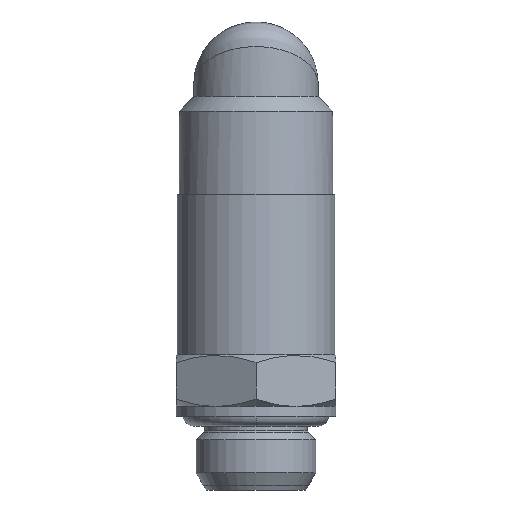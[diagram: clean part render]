
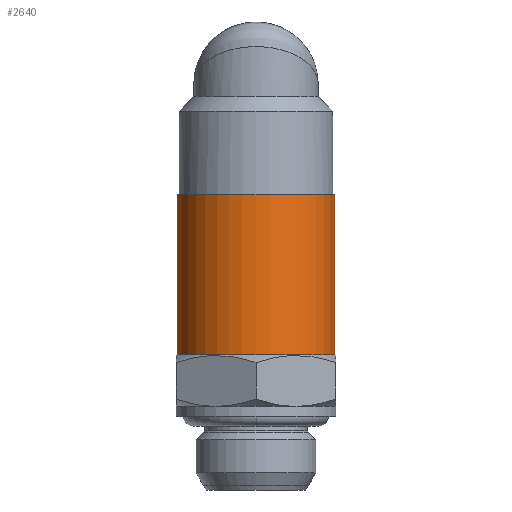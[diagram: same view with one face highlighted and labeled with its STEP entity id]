
A CAD part, left-side view. The second image highlights one B-rep face of the part: STEP entity #2640.
In plain terms, the highlighted cylindrical face has radius 6.4 mm (diameter 12.8 mm), a full revolution.
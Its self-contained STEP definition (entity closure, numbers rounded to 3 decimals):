
#2640=ADVANCED_FACE('', (#2650,#2660), #2670, .T.);
#7990=AXIS2_PLACEMENT_3D('Ax2Pl3d', #8000, #8010, #8020);
#8550=AXIS2_PLACEMENT_3D('Ax2Pl3d', #8560, #8570, #8580);
#8590=AXIS2_PLACEMENT_3D('Ax2Pl3d', #8600, #8610, #8620);
#8000=CARTESIAN_POINT('HicPkt', (7.748,9.497,
-9.921));
#23720=CARTESIAN_POINT('', (7.748,3.097,-9.921))
;
#8560=CARTESIAN_POINT('HicPkt', (7.748,9.497,
3.079));
#8600=CARTESIAN_POINT('HicPkt', (7.748,9.497,
3.079));
#23790=CARTESIAN_POINT('', (7.748,15.897,3.079));
#24440=CIRCLE('Circle', #7990, 6.4);
#24510=CIRCLE('Circle', #8590, 6.4);
#2670=CYLINDRICAL_SURFACE('Zyl', #8550, 6.4);
#8010=DIRECTION('Axis', (0.,0.,1.));
#8020=DIRECTION('RefDirection', (1.,0.,-0.));
#8570=DIRECTION('Axis', (0.,0.,-1.));
#8580=DIRECTION('RefDirection', (-1.,-0.,0.));
#8610=DIRECTION('Axis', (0.,0.,1.));
#8620=DIRECTION('RefDirection', (1.,0.,-0.));
#29320=EDGE_CURVE('', #29330, #29330, #24440, .T.);
#29460=EDGE_CURVE('', #29470, #29470, #24510, .T.);
#32630=EDGE_LOOP('Edge_loop', (#32640));
#32650=EDGE_LOOP('Edge_loop', (#32660));
#2660=FACE_BOUND('', #32650, .T.);
#2650=FACE_OUTER_BOUND('Face_outer_bound', #32630, .T.);
#32640=ORIENTED_EDGE('', *, *, #29460, .F.);
#32660=ORIENTED_EDGE('', *, *, #29320, .T.);
#29330=VERTEX_POINT('', #23720);
#29470=VERTEX_POINT('', #23790);
